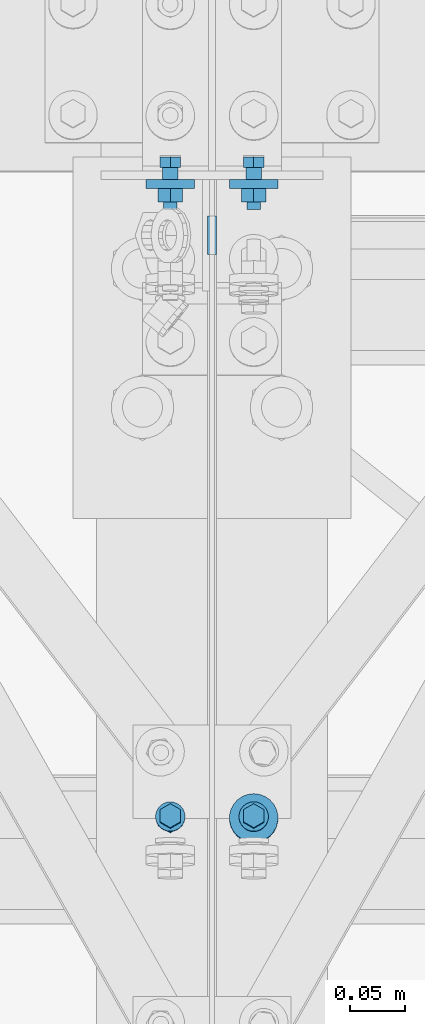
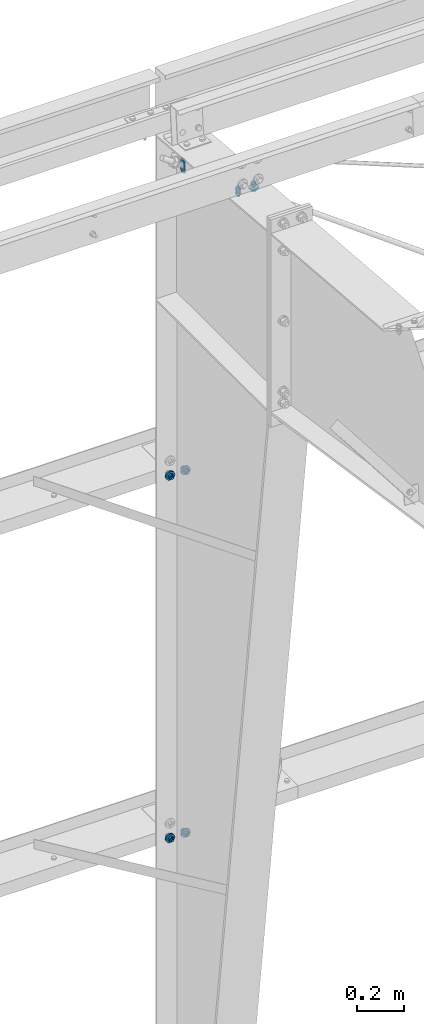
# One storey, part 165 of 185: 7 mechanical fasteners, 4 elements without a shape of their own.
"""IFC2X3 building model written with IfcOpenShell, lengths in millimetres."""

from ifc_helpers import new_model, si_unit, frame, frame_2d, origin_with_axes, origin_2d_with_axis, place, context, subcontext, project, spatial, polyline, circle_curve, parameter, trimmed, segment, composite_curve, circle, outline, extrude, source, transform, mapped, material, type_object, element, aggregate, save


model = new_model("IFC2X3")

# Units and contexts
model_context = context("Model", 3, precision=1e-05, world=origin_with_axes())
body_context = subcontext(model_context, "Body", "Model", "MODEL_VIEW")
ifc_project = project(units=[si_unit("LENGTHUNIT", "METRE", prefix="MILLI"), si_unit("AREAUNIT", "SQUARE_METRE"), si_unit("VOLUMEUNIT", "CUBIC_METRE"), si_unit("MASSUNIT", "GRAM", prefix="KILO"), si_unit("TIMEUNIT", "SECOND"), si_unit("PLANEANGLEUNIT", "RADIAN"), si_unit("SOLIDANGLEUNIT", "STERADIAN"), si_unit("THERMODYNAMICTEMPERATUREUNIT", "DEGREE_CELSIUS"), si_unit("LUMINOUSINTENSITYUNIT", "LUMEN")], contexts=[model_context])

# Site, building, storey
site_placement = place(None, origin_with_axes())
site = spatial("IfcSite", under=ifc_project, at=site_placement, Name="Undefined", CompositionType="ELEMENT")
building_placement = place(site_placement, origin_with_axes())
building = spatial("IfcBuilding", under=site, at=building_placement, Name="Undefined", CompositionType="ELEMENT")
storey_placement = place(building_placement, origin_with_axes())
storey = spatial("IfcBuildingStorey", under=building, at=storey_placement, Name="Undefined", CompositionType="ELEMENT", Elevation=0.0)

# Assembly, mechanical fasteners
assembly_1_placement = place(storey_placement, origin_with_axes())
assembly_1 = element("IfcElementAssembly", 1, at=assembly_1_placement, inside=storey, Name="Steel Assembly", AssemblyPlace="NOTDEFINED", PredefinedType="RIGID_FRAME")
ifc_material = material(Name="Undefined")
discrete_accessory_type = type_object("IfcDiscreteAccessoryType", Name="Bolt assembly")
shared_shape_1 = source(origin_with_axes(), body_context, "Body", "SweptSolid", [
    extrude(circle(Radius=7.14374971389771, at=origin_2d_with_axis()), frame((0.0, -3.08000006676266, 0.0), z_axis=(0.0, 1.0, 0.0), x_axis=(1.0, 0.0, 0.0)), (0.0, 0.0, 1.0), 3.2),
    extrude(circle(Radius=7.14374971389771, at=origin_2d_with_axis()), frame((0.0, -3.08000006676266, 0.0), z_axis=(0.0, 1.0, 0.0), x_axis=(1.0, 0.0, 0.0)), (0.0, 0.0, 1.0), 3.2),
    extrude(circle(Radius=7.14374971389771, at=origin_2d_with_axis()), frame((0.0, -0.1, 0.0), z_axis=(0.0, 1.0, 0.0), x_axis=(1.0, 0.0, 0.0)), (0.0, 0.0, 1.0), 8.0),
    extrude(outline(polyline([(10.9985221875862, 0.0), (5.4992610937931, 9.52499961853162), (-5.4992610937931, 9.52499961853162), (-10.9985221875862, 0.0), (-5.4992610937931, -9.52499961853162), (5.4992610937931, -9.52499961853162), (10.9985221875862, 0.0)])), frame((0.0, -12.7050014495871, 0.0), z_axis=(0.0, 1.0, 0.0), x_axis=(1.0, 0.0, 0.0)), (0.0, 0.0, 1.0), 9.5),
    extrude(circle(Radius=6.34999990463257, at=origin_2d_with_axis()), frame((0.0, -3.18000030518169, 0.0), z_axis=(0.0, 1.0, 0.0), x_axis=(1.0, 0.0, 0.0)), (0.0, 0.0, 1.0), 38.1),
    extrude(circle(Radius=22.2250003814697, at=origin_2d_with_axis()), frame((0.0, 7.87399999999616, 0.0), z_axis=(0.0, 1.0, 0.0), x_axis=(1.0, 0.0, 0.0)), (0.0, 0.0, 1.0), 7.9),
    extrude(outline(polyline([(12.8316099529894, 0.0), (6.4158049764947, 11.1125001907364), (-6.4158049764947, 11.1125001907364), (-12.8316099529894, 0.0), (-6.4158049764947, -11.1125001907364), (6.4158049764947, -11.1125001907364), (12.8316099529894, 0.0)])), frame((0.0, 15.8114999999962, 0.0), z_axis=(0.0, 1.0, 0.0), x_axis=(1.0, 0.0, 0.0)), (0.0, 0.0, 1.0), 12.3),
])
mechanical_fastener_1_placement = place(assembly_1_placement, frame((30060.9, 31800.8, 4127.5), z_axis=(-1.0, 0.0, 0.0), x_axis=(0.0, 0.0, -1.0)))
mechanical_fastener_1 = element("IfcMechanicalFastener", 2, at=mechanical_fastener_1_placement, type_object=discrete_accessory_type, material=ifc_material, Name="Bolt assembly", NominalDiameter=12.6999998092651, NominalLength=38.0999984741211, context=body_context, shape_type="MappedRepresentation", body=[
    mapped(shared_shape_1, transform((0.0, 0.0, 0.0))),
])
mechanical_fastener_2_placement = place(assembly_1_placement, frame((30137.1, 31800.8, 4127.5), z_axis=(-1.0, 0.0, 0.0), x_axis=(0.0, 0.0, -1.0)))
mechanical_fastener_2 = element("IfcMechanicalFastener", 3, at=mechanical_fastener_2_placement, type_object=discrete_accessory_type, material=ifc_material, Name="Bolt assembly", NominalDiameter=12.6999998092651, NominalLength=38.0999984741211, context=body_context, shape_type="MappedRepresentation", body=[
    mapped(shared_shape_1, transform((0.0, 0.0, 0.0))),
])
aggregate(assembly_1, [mechanical_fastener_1, mechanical_fastener_2])

assembly_2_placement = place(storey_placement, origin_with_axes())
assembly_2 = element("IfcElementAssembly", 4, at=assembly_2_placement, inside=storey, Name="Steel Assembly", AssemblyPlace="NOTDEFINED", PredefinedType="RIGID_FRAME")
mechanical_fastener_3_placement = place(assembly_2_placement, frame((30060.9, 31800.8, 2247.9), z_axis=(-1.0, 0.0, 0.0), x_axis=(0.0, 0.0, -1.0)))
mechanical_fastener_3 = element("IfcMechanicalFastener", 5, at=mechanical_fastener_3_placement, type_object=discrete_accessory_type, material=ifc_material, Name="Bolt assembly", NominalDiameter=12.6999998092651, NominalLength=38.0999984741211, context=body_context, shape_type="MappedRepresentation", body=[
    mapped(shared_shape_1, transform((0.0, 0.0, 0.0))),
])
mechanical_fastener_4_placement = place(assembly_2_placement, frame((30137.1, 31800.8, 2247.9), z_axis=(-1.0, 0.0, 0.0), x_axis=(0.0, 0.0, -1.0)))
mechanical_fastener_4 = element("IfcMechanicalFastener", 6, at=mechanical_fastener_4_placement, type_object=discrete_accessory_type, material=ifc_material, Name="Bolt assembly", NominalDiameter=12.6999998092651, NominalLength=38.0999984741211, context=body_context, shape_type="MappedRepresentation", body=[
    mapped(shared_shape_1, transform((0.0, 0.0, 0.0))),
])
aggregate(assembly_2, [mechanical_fastener_3, mechanical_fastener_4])

# Assembly, mechanical fastener
assembly_3_placement = place(storey_placement, origin_with_axes())
assembly_3 = element("IfcElementAssembly", 7, at=assembly_3_placement, inside=storey, Name="Steel Assembly", AssemblyPlace="NOTDEFINED", PredefinedType="RIGID_FRAME")
shared_shape_2 = source(origin_with_axes(), body_context, "Body", "SweptSolid", [
    extrude(outline(composite_curve([segment(polyline([(-23.8125, 17.4624996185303), (23.8125, 17.4624996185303)]), True, "CONTINUOUS"), segment(trimmed(circle_curve(frame_2d((23.8125, 4.76249980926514), x_axis=(0.0, 1.0)), 12.7), [parameter(0.0)], [parameter(4.71238898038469)], False, "PARAMETER"), True, "CONTINUOUS"), segment(polyline([(36.5124998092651, 4.76249980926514), (36.5124998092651, -4.76249980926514)]), True, "CONTINUOUS"), segment(trimmed(circle_curve(frame_2d((23.8125, -4.76249980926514), x_axis=(1.0, 0.0)), 12.7), [parameter(0.0)], [parameter(4.71238898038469)], False, "PARAMETER"), True, "CONTINUOUS"), segment(polyline([(23.8125, -17.4624996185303), (-23.8125, -17.4624996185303)]), True, "CONTINUOUS"), segment(trimmed(circle_curve(frame_2d((-23.8125, -4.76249980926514), x_axis=(0.0, -1.0)), 12.7), [parameter(0.0)], [parameter(4.71238898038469)], False, "PARAMETER"), True, "CONTINUOUS"), segment(polyline([(-36.5124998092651, -4.76249980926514), (-36.5124998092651, 4.76249980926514)]), True, "CONTINUOUS"), segment(trimmed(circle_curve(frame_2d((-23.8125, 4.76249980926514), x_axis=(-1.0, 0.0)), 12.7), [parameter(0.0)], [parameter(4.71238898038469)], False, "PARAMETER"), True, "DISCONTINUOUS")], self_intersect=False)), frame((0.0, -3.96874999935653, 0.0), z_axis=(0.0, 1.0, 0.0), x_axis=(1.0, 0.0, 0.0)), (0.0, 0.0, 1.0), 8.0),
])
mechanical_fastener_5_placement = place(assembly_3_placement, frame((30099.0, 31742.1260000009, 5749.62739332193), z_axis=(0.0, 1.0, 0.0), x_axis=(0.0, 0.0, -1.0)))
mechanical_fastener_5 = element("IfcMechanicalFastener", 8, at=mechanical_fastener_5_placement, type_object=discrete_accessory_type, material=ifc_material, Name="Bolt assembly", NominalDiameter=25.3999996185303, NominalLength=31.75, context=body_context, shape_type="MappedRepresentation", body=[
    mapped(shared_shape_2, transform((0.0, 0.0, 0.0))),
])
aggregate(assembly_3, [mechanical_fastener_5])

# Assembly, mechanical fasteners
assembly_4_placement = place(storey_placement, origin_with_axes())
assembly_4 = element("IfcElementAssembly", 9, at=assembly_4_placement, inside=storey, Name="Steel Assembly", AssemblyPlace="NOTDEFINED", PredefinedType="RIGID_FRAME")
shared_shape_3 = source(origin_with_axes(), body_context, "Body", "SweptSolid", [
    extrude(circle(Radius=7.14374971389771, at=origin_2d_with_axis()), frame((0.0, -0.1, 0.0), z_axis=(0.0, 1.0, 0.0), x_axis=(1.0, 0.0, 0.0)), (0.0, 0.0, 1.0), 8.1),
    extrude(circle(Radius=7.14374971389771, at=origin_2d_with_axis()), frame((0.0, -3.08000006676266, 0.0), z_axis=(0.0, 1.0, 0.0), x_axis=(1.0, 0.0, 0.0)), (0.0, 0.0, 1.0), 3.2),
    extrude(circle(Radius=7.14374971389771, at=origin_2d_with_axis()), frame((0.0, -3.08000006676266, 0.0), z_axis=(0.0, 1.0, 0.0), x_axis=(1.0, 0.0, 0.0)), (0.0, 0.0, 1.0), 3.2),
    extrude(outline(polyline([(10.9985221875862, 0.0), (5.4992610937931, 9.52499961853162), (-5.4992610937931, 9.52499961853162), (-10.9985221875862, 0.0), (-5.4992610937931, -9.52499961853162), (5.4992610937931, -9.52499961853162), (10.9985221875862, 0.0)])), frame((0.0, -16.6737496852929, 0.0), z_axis=(0.0, 1.0, 0.0), x_axis=(1.0, 0.0, 0.0)), (0.0, 0.0, 1.0), 9.5),
    extrude(circle(Radius=6.34999990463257, at=origin_2d_with_axis()), frame((0.0, -7.14875006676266, 0.0), z_axis=(0.0, 1.0, 0.0), x_axis=(1.0, 0.0, 0.0)), (0.0, 0.0, 1.0), 38.1),
    extrude(circle(Radius=13.4937496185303, at=origin_2d_with_axis()), frame((0.0, -7.14875006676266, 0.0), z_axis=(0.0, 1.0, 0.0), x_axis=(1.0, 0.0, 0.0)), (0.0, 0.0, 1.0), 4.0),
    extrude(circle(Radius=22.2250003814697, at=origin_2d_with_axis()), frame((0.0, 7.95019856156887, 0.0), z_axis=(0.0, 1.0, 0.0), x_axis=(1.0, 0.0, 0.0)), (0.0, 0.0, 1.0), 7.9),
    extrude(outline(polyline([(12.8316099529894, 0.0), (6.4158049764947, 11.1125001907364), (-6.4158049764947, 11.1125001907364), (-12.8316099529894, 0.0), (-6.4158049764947, -11.1125001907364), (6.4158049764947, -11.1125001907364), (12.8316099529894, 0.0)])), frame((0.0, 15.8876985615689, 0.0), z_axis=(0.0, 1.0, 0.0), x_axis=(1.0, 0.0, 0.0)), (0.0, 0.0, 1.0), 12.3),
])
mechanical_fastener_6_placement = place(assembly_4_placement, frame((30137.1, 31210.4504829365, 5958.22479169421), z_axis=(-1.0, 0.0, 0.0), x_axis=(0.0, 0.996545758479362, -0.0830454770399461)))
mechanical_fastener_6 = element("IfcMechanicalFastener", 10, at=mechanical_fastener_6_placement, type_object=discrete_accessory_type, material=ifc_material, Name="Bolt assembly", NominalDiameter=12.6999998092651, NominalLength=38.0999984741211, context=body_context, shape_type="MappedRepresentation", body=[
    mapped(shared_shape_3, transform((0.0, 0.0, 0.0))),
])
shared_shape_4 = source(origin_with_axes(), body_context, "Body", "SweptSolid", [
    extrude(circle(Radius=7.14374971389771, at=origin_2d_with_axis()), frame((0.0, -0.1, 0.0), z_axis=(0.0, 1.0, 0.0), x_axis=(1.0, 0.0, 0.0)), (0.0, 0.0, 1.0), 8.1),
    extrude(circle(Radius=7.14374971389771, at=origin_2d_with_axis()), frame((0.0, -3.08000006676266, 0.0), z_axis=(0.0, 1.0, 0.0), x_axis=(1.0, 0.0, 0.0)), (0.0, 0.0, 1.0), 3.2),
    extrude(circle(Radius=7.14374971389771, at=origin_2d_with_axis()), frame((0.0, -3.08000006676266, 0.0), z_axis=(0.0, 1.0, 0.0), x_axis=(1.0, 0.0, 0.0)), (0.0, 0.0, 1.0), 3.2),
    extrude(outline(polyline([(10.9985221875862, 0.0), (5.4992610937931, 9.52499961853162), (-5.4992610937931, 9.52499961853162), (-10.9985221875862, 0.0), (-5.4992610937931, -9.52499961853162), (5.4992610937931, -9.52499961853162), (10.9985221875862, 0.0)])), frame((0.0, -16.6737496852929, 0.0), z_axis=(0.0, 1.0, 0.0), x_axis=(1.0, 0.0, 0.0)), (0.0, 0.0, 1.0), 9.5),
    extrude(circle(Radius=6.34999990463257, at=origin_2d_with_axis()), frame((0.0, -7.14875006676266, 0.0), z_axis=(0.0, 1.0, 0.0), x_axis=(1.0, 0.0, 0.0)), (0.0, 0.0, 1.0), 38.1),
    extrude(circle(Radius=13.4937496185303, at=origin_2d_with_axis()), frame((0.0, -7.14875006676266, 0.0), z_axis=(0.0, 1.0, 0.0), x_axis=(1.0, 0.0, 0.0)), (0.0, 0.0, 1.0), 4.0),
    extrude(outline(polyline([(12.8316099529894, 0.0), (6.4158049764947, 11.1125001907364), (-6.4158049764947, 11.1125001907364), (-12.8316099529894, 0.0), (-6.4158049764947, -11.1125001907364), (6.4158049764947, -11.1125001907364), (12.8316099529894, 0.0)])), frame((0.0, 7.95019856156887, 0.0), z_axis=(0.0, 1.0, 0.0), x_axis=(1.0, 0.0, 0.0)), (0.0, 0.0, 1.0), 12.3),
])
mechanical_fastener_7_placement = place(assembly_4_placement, frame((30060.9, 31210.4504829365, 5958.22479169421), z_axis=(-1.0, 0.0, 0.0), x_axis=(0.0, 0.996545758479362, -0.0830454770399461)))
mechanical_fastener_7 = element("IfcMechanicalFastener", 11, at=mechanical_fastener_7_placement, type_object=discrete_accessory_type, material=ifc_material, Name="Bolt assembly", NominalDiameter=12.6999998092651, NominalLength=38.0999984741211, context=body_context, shape_type="MappedRepresentation", body=[
    mapped(shared_shape_4, transform((0.0, 0.0, 0.0))),
])
aggregate(assembly_4, [mechanical_fastener_6, mechanical_fastener_7])

save(model, "model.ifc")
